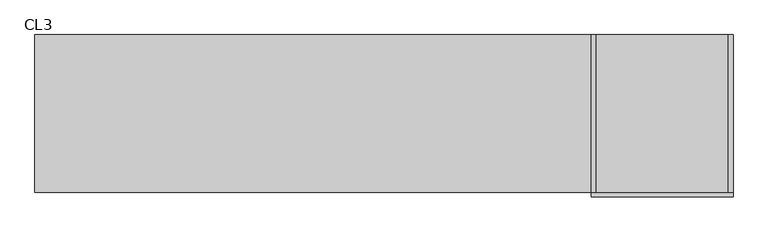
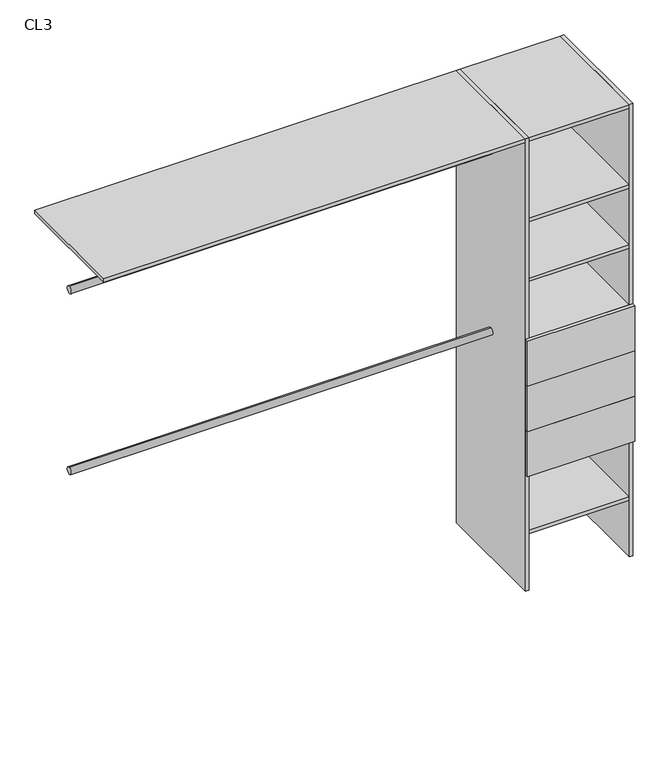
"""IFC4 building model written with IfcOpenShell, lengths in millimetres: furniture geometry, Closet 1estantes-1tubos_sin laterales : CL3."""

from ifc_helpers import new_model, si_unit, point, frame, frame_2d, origin, origin_with_axes, place, context, project, spatial, polyline, circle_curve, trimmed, segment, composite_curve, outline, extrude, source, transform, mapped, element, save


def cl3_b47889eb(model_context):
    return source(origin(), model_context, "Body", "SweptSolid", [
        extrude(outline(polyline([(225.0, 100.0), (210.0, 100.0), (210.0, 600.0), (225.0, 600.0), (225.0, 100.0)])), origin_with_axes(), (0.0, 0.0, 1.0), 2000.0),
        extrude(outline(polyline([(-210.0, 100.0), (-225.0, 100.0), (-225.0, 600.0), (-210.0, 600.0), (-210.0, 100.0)])), origin_with_axes(), (0.0, 0.0, 1.0), 2000.0),
        extrude(outline(polyline([(225.0, 100.0), (225.0, 85.0), (-225.0, 85.0), (-225.0, 100.0), (225.0, 100.0)])), frame((0.0, 0.0, 915.0), z_axis=(0.0, 0.0, 1.0), x_axis=(1.0, 0.0, 0.0)), (0.0, 0.0, 1.0), 200.0),
        extrude(outline(polyline([(225.0, 100.0), (225.0, 85.0), (-225.0, 85.0), (-225.0, 100.0), (225.0, 100.0)])), frame((0.0, 0.0, 715.0), z_axis=(0.0, 0.0, 1.0), x_axis=(1.0, 0.0, 0.0)), (0.0, 0.0, 1.0), 200.0),
        extrude(outline(polyline([(225.0, 100.0), (225.0, 85.0), (-225.0, 85.0), (-225.0, 100.0), (225.0, 100.0)])), frame((0.0, 0.0, 515.0), z_axis=(0.0, 0.0, 1.0), x_axis=(1.0, 0.0, 0.0)), (0.0, 0.0, 1.0), 200.0),
        extrude(outline(polyline([(210.0, 100.0), (-210.0, 100.0), (-210.0, 600.0), (210.0, 600.0), (210.0, 100.0)])), frame((0.0, 0.0, 1100.0), z_axis=(0.0, 0.0, 1.0), x_axis=(1.0, 0.0, 0.0)), (0.0, 0.0, 1.0), 15.0),
        extrude(outline(composite_curve([segment(trimmed(circle_curve(frame_2d((350.0, 1000.0)), 15.0), [point((350.0, 1015.0))], [point((350.0, 985.0))], False, "CARTESIAN"), True, "CONTINUOUS"), segment(trimmed(circle_curve(frame_2d((350.0, 1000.0)), 15.0), [point((350.0, 985.0))], [point((350.0, 1015.0))], False, "CARTESIAN"), True, "CONTINUOUS")], self_intersect=False)), frame((-1990.0, 0.0, 0.0), z_axis=(1.0, 0.0, 0.0), x_axis=(0.0, 1.0, 0.0)), (0.0, 0.0, 1.0), 1765.0),
        extrude(outline(composite_curve([segment(trimmed(circle_curve(frame_2d((350.0, 1800.0)), 15.0), [point((350.0, 1815.0))], [point((350.0, 1785.0))], False, "CARTESIAN"), True, "CONTINUOUS"), segment(trimmed(circle_curve(frame_2d((350.0, 1800.0)), 15.0), [point((350.0, 1785.0))], [point((350.0, 1815.0))], False, "CARTESIAN"), True, "CONTINUOUS")], self_intersect=False)), frame((-1990.0, 0.0, 0.0), z_axis=(1.0, 0.0, 0.0), x_axis=(0.0, 1.0, 0.0)), (0.0, 0.0, 1.0), 1765.0),
        extrude(outline(polyline([(210.0, 100.0), (-210.0, 100.0), (-210.0, 600.0), (210.0, 600.0), (210.0, 100.0)])), frame((0.0, 0.0, 250.0), z_axis=(0.0, 0.0, 1.0), x_axis=(1.0, 0.0, 0.0)), (0.0, 0.0, 1.0), 15.0),
        extrude(outline(polyline([(210.0, 100.0), (-210.0, 100.0), (-210.0, 600.0), (210.0, 600.0), (210.0, 100.0)])), frame((0.0, 0.0, 515.0), z_axis=(0.0, 0.0, 1.0), x_axis=(1.0, 0.0, 0.0)), (0.0, 0.0, 1.0), 15.0),
        extrude(outline(polyline([(210.0, 100.0), (-210.0, 100.0), (-210.0, 600.0), (210.0, 600.0), (210.0, 100.0)])), frame((0.0, 0.0, 1365.0), z_axis=(0.0, 0.0, 1.0), x_axis=(1.0, 0.0, 0.0)), (0.0, 0.0, 1.0), 15.0),
        extrude(outline(polyline([(210.0, 100.0), (-210.0, 100.0), (-210.0, 600.0), (210.0, 600.0), (210.0, 100.0)])), frame((0.0, 0.0, 1630.0), z_axis=(0.0, 0.0, 1.0), x_axis=(1.0, 0.0, 0.0)), (0.0, 0.0, 1.0), 15.0),
        extrude(outline(polyline([(-210.0, 100.0), (-1990.0, 100.0), (-1990.0, 600.0), (-210.0, 600.0), (-210.0, 100.0)])), frame((0.0, 0.0, 1985.0), z_axis=(0.0, 0.0, 1.0), x_axis=(1.0, 0.0, 0.0)), (0.0, 0.0, 1.0), 15.0),
        extrude(outline(polyline([(210.0, 100.0), (-210.0, 100.0), (-210.0, 600.0), (210.0, 600.0), (210.0, 100.0)])), frame((0.0, 0.0, 1985.0), z_axis=(0.0, 0.0, 1.0), x_axis=(1.0, 0.0, 0.0)), (0.0, 0.0, 1.0), 15.0),
    ])


if __name__ == "__main__":
    model = new_model("IFC4")
    model_context = context("Model", 3, world=origin())
    ifc_project = project(units=[si_unit("LENGTHUNIT", "METRE", prefix="MILLI")], contexts=[model_context])
    site = spatial("IfcSite", under=ifc_project)
    building = spatial("IfcBuilding", under=site)
    placement = place(None, origin())
    cl3_shape = cl3_b47889eb(model_context)
    element("IfcFurniture", 1, ObjectType="Closet 1estantes-1tubos_sin laterales : CL3", at=placement, inside=building, context=model_context, shape_type="MappedRepresentation", body=[
        mapped(cl3_shape, transform((0.0, 0.0, 0.0), x_axis=(1.0, 0.0, 0.0), y_axis=(0.0, 1.0, 0.0), z_axis=(0.0, 0.0, 1.0))),
    ])
    save(model, "model.ifc")
